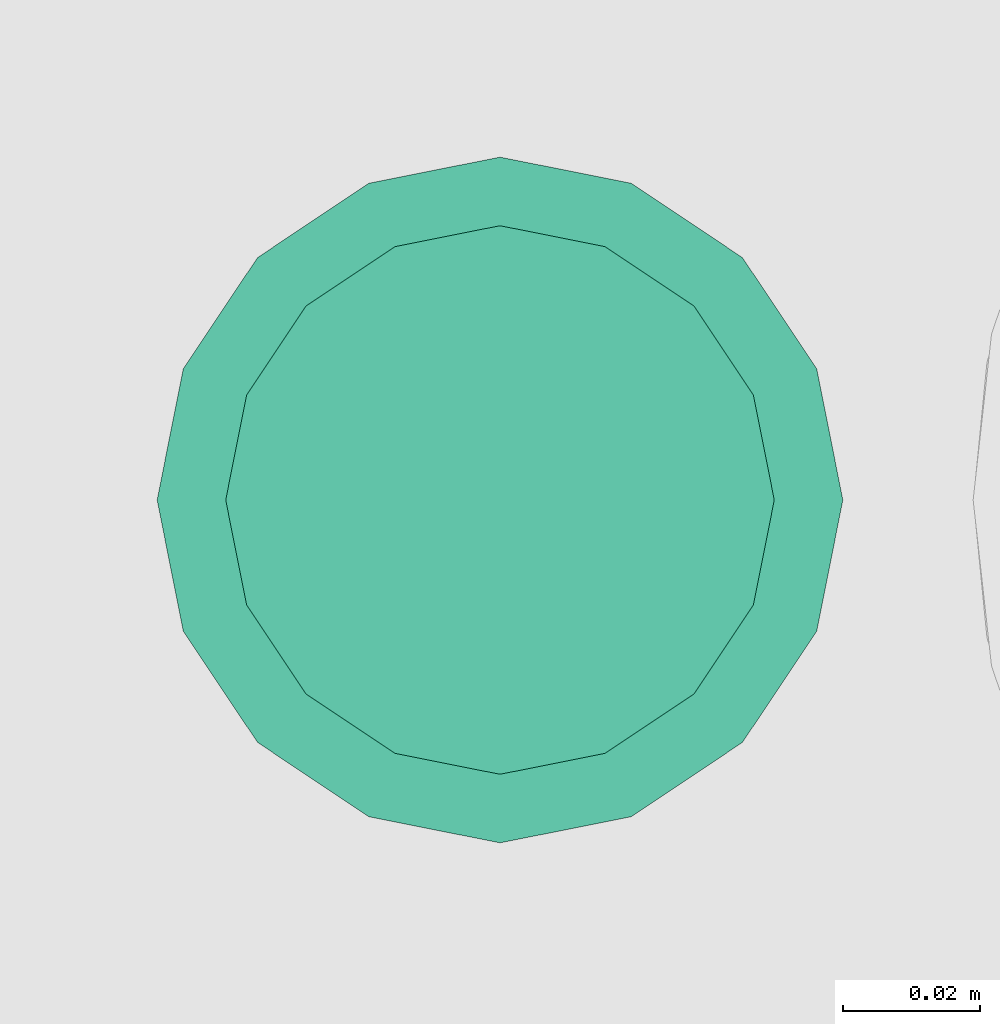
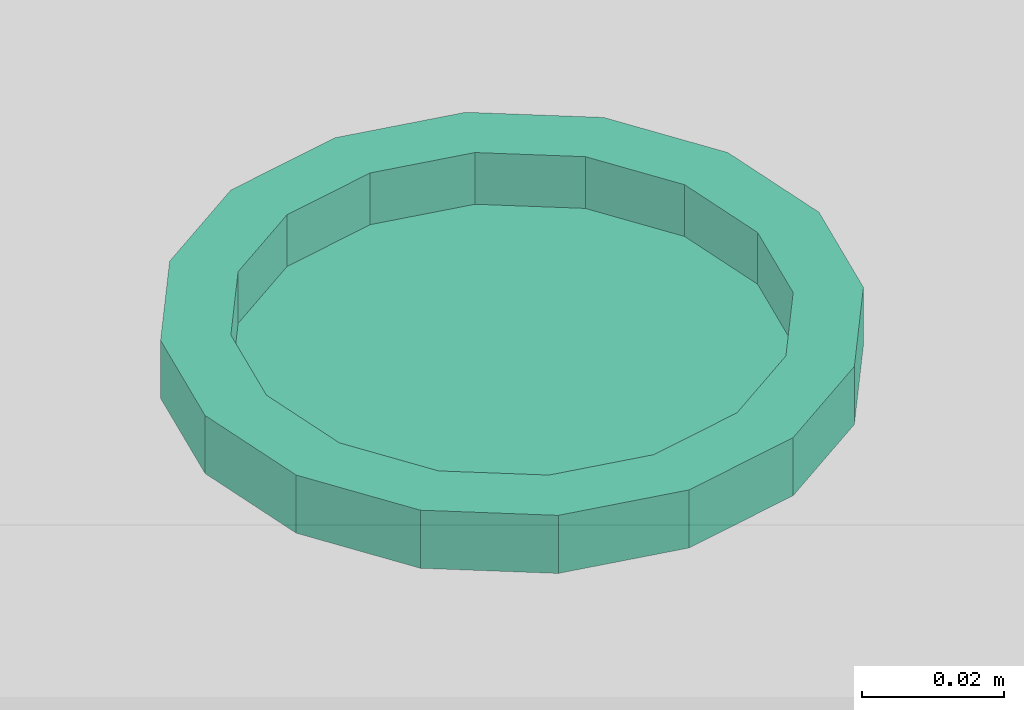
# One storey, part 259 of 347: 1 flow terminal.
"""IFC2X3 building model written with IfcOpenShell, lengths in millimetres."""

from ifc_helpers import new_model, entity, si_unit, converted_unit, derived_unit, money_unit, direction, frame, origin_with_axes, place, context, subcontext, project, spatial, open_shell, faceted_brep, surface_model, source, transform, mapped, type_object, type_shapes, element, save


model = new_model("IFC2X3")

# Units and contexts
model_context = context("Model", 3, precision=0.01, world=origin_with_axes(), true_north=direction((0.0, 1.0)))
plan_context = context("Plan", 3, precision=0.01, world=origin_with_axes(), true_north=direction((0.0, 1.0)))
body_context = subcontext(model_context, "Body", "Model", "MODEL_VIEW")
ifc_project = project(units=[si_unit("LENGTHUNIT", "METRE", prefix="MILLI"), si_unit("AREAUNIT", "SQUARE_METRE"), si_unit("VOLUMEUNIT", "CUBIC_METRE"), converted_unit("PLANEANGLEUNIT", "DEGREE", entity("IfcPlaneAngleMeasure", 0.0174532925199), si_unit("PLANEANGLEUNIT", "RADIAN"), dimensions=[0, 0, 0, 0, 0, 0, 0]), money_unit("EUR"), converted_unit("TIMEUNIT", "Year", entity("IfcTimeMeasure", 31556926.0), si_unit("TIMEUNIT", "SECOND"), dimensions=[0, 0, 1, 0, 0, 0, 0]), si_unit("MASSUNIT", "GRAM", prefix="KILO"), si_unit("THERMODYNAMICTEMPERATUREUNIT", "DEGREE_CELSIUS"), si_unit("LUMINOUSINTENSITYUNIT", "LUMEN"), si_unit("ENERGYUNIT", "JOULE", prefix="MEGA"), derived_unit("THERMALCONDUCTANCEUNIT", [(si_unit("POWERUNIT", "WATT"), 1), (si_unit("LENGTHUNIT", "METRE"), -1), (si_unit("THERMODYNAMICTEMPERATUREUNIT", "KELVIN"), -1)]), derived_unit("SPECIFICHEATCAPACITYUNIT", [(si_unit("ENERGYUNIT", "JOULE"), 1), (si_unit("MASSUNIT", "GRAM", prefix="KILO"), -1), (si_unit("THERMODYNAMICTEMPERATUREUNIT", "KELVIN"), -1)]), derived_unit("MASSDENSITYUNIT", [(si_unit("MASSUNIT", "GRAM", prefix="KILO"), 1), (si_unit("VOLUMEUNIT", "CUBIC_METRE"), -1)])], contexts=[model_context, plan_context])

# Site, building, storey
site_placement = place(None, origin_with_axes())
site = spatial("IfcSite", under=ifc_project, at=site_placement, Name="Site", CompositionType="ELEMENT")
building_placement = place(site_placement, origin_with_axes())
building = spatial("IfcBuilding", under=site, at=building_placement, Name="Naam gebouw", CompositionType="ELEMENT")
storey_placement = place(building_placement, origin_with_axes())
storey = spatial("IfcBuildingStorey", under=building, at=storey_placement, Name="begane grond", CompositionType="ELEMENT", Elevation=0.0)

# Flow terminal
lamp_type = type_object("IfcLampType", Name="Spot plafond 01 25", PredefinedType="NOTDEFINED")
shared_shape = source(origin_with_axes(), body_context, "Body", "SurfaceModel", [
    faceted_brep([(50.0, 0.0, -10.0), (46.1939766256, 19.1341716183, -10.0), (46.1939766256, 19.1341716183, 0.0), (50.0, 0.0, 0.0), (46.1939766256, -19.1341716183, -10.0), (35.3553390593, -35.3553390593, -10.0), (19.1341716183, -46.1939766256, -10.0), (0.0, -50.0, -10.0), (-19.1341716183, -46.1939766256, -10.0), (-35.3553390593, -35.3553390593, -10.0), (-46.1939766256, -19.1341716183, -10.0), (-50.0, 0.0, -10.0), (-46.1939766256, 19.1341716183, -10.0), (-35.3553390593, 35.3553390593, -10.0), (-19.1341716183, 46.1939766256, -10.0), (0.0, 50.0, -10.0), (19.1341716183, 46.1939766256, -10.0), (35.3553390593, 35.3553390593, -10.0), (40.0, 0.0, -10.0), (36.9551813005, 15.3073372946, -10.0), (28.2842712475, 28.2842712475, -10.0), (15.3073372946, 36.9551813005, -10.0), (0.0, 40.0, -10.0), (-15.3073372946, 36.9551813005, -10.0), (-28.2842712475, 28.2842712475, -10.0), (-36.9551813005, 15.3073372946, -10.0), (-40.0, 0.0, -10.0), (-36.9551813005, -15.3073372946, -10.0), (-28.2842712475, -28.2842712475, -10.0), (-15.3073372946, -36.9551813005, -10.0), (0.0, -40.0, -10.0), (15.3073372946, -36.9551813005, -10.0), (28.2842712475, -28.2842712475, -10.0), (36.9551813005, -15.3073372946, -10.0), (35.3553390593, 35.3553390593, 0.0), (19.1341716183, 46.1939766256, 0.0), (0.0, 50.0, 0.0), (-19.1341716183, 46.1939766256, 0.0), (-35.3553390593, 35.3553390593, 0.0), (-46.1939766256, 19.1341716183, 0.0), (-50.0, 0.0, 0.0), (-46.1939766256, -19.1341716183, 0.0), (-35.3553390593, -35.3553390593, 0.0), (-19.1341716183, -46.1939766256, 0.0), (0.0, -50.0, 0.0), (19.1341716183, -46.1939766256, 0.0), (35.3553390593, -35.3553390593, 0.0), (46.1939766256, -19.1341716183, 0.0), (40.0, 0.0, 0.0), (36.9551813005, -15.3073372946, 0.0), (28.2842712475, -28.2842712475, 0.0), (15.3073372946, -36.9551813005, 0.0), (0.0, -40.0, 0.0), (-15.3073372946, -36.9551813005, 0.0), (-28.2842712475, -28.2842712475, 0.0), (-36.9551813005, -15.3073372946, 0.0), (-40.0, 0.0, 0.0), (-36.9551813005, 15.3073372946, 0.0), (-28.2842712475, 28.2842712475, 0.0), (-15.3073372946, 36.9551813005, 0.0), (0.0, 40.0, 0.0), (15.3073372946, 36.9551813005, 0.0), (28.2842712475, 28.2842712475, 0.0), (36.9551813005, 15.3073372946, 0.0)], [[[0, 1, 2, 3]], [[0, 4, 5, 6, 7, 8, 9, 10, 11, 12, 13, 14, 15, 16, 17, 1], [18, 19, 20, 21, 22, 23, 24, 25, 26, 27, 28, 29, 30, 31, 32, 33]], [[1, 17, 34, 2]], [[3, 2, 34, 35, 36, 37, 38, 39, 40, 41, 42, 43, 44, 45, 46, 47], [48, 49, 50, 51, 52, 53, 54, 55, 56, 57, 58, 59, 60, 61, 62, 63]], [[4, 0, 3, 47]], [[5, 4, 47, 46]], [[6, 5, 46, 45]], [[7, 6, 45, 44]], [[8, 7, 44, 43]], [[9, 8, 43, 42]], [[10, 9, 42, 41]], [[11, 10, 41, 40]], [[12, 11, 40, 39]], [[13, 12, 39, 38]], [[14, 13, 38, 37]], [[15, 14, 37, 36]], [[16, 15, 36, 35]], [[17, 16, 35, 34]], [[19, 18, 48, 63]], [[20, 19, 63, 62]], [[21, 20, 62, 61]], [[22, 21, 61, 60]], [[23, 22, 60, 59]], [[24, 23, 59, 58]], [[25, 24, 58, 57]], [[26, 25, 57, 56]], [[27, 26, 56, 55]], [[28, 27, 55, 54]], [[29, 28, 54, 53]], [[30, 29, 53, 52]], [[31, 30, 52, 51]], [[32, 31, 51, 50]], [[33, 32, 50, 49]], [[18, 33, 49, 48]]]),
    surface_model("IfcShellBasedSurfaceModel", [(40.0, 0.0, -8.9), (36.9551813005, -15.3073372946, -8.9), (28.2842712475, -28.2842712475, -8.9), (15.3073372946, -36.9551813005, -8.9), (0.0, -40.0, -8.9), (-15.3073372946, -36.9551813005, -8.9), (-28.2842712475, -28.2842712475, -8.9), (-36.9551813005, -15.3073372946, -8.9), (-40.0, 0.0, -8.9), (-36.9551813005, 15.3073372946, -8.9), (-28.2842712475, 28.2842712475, -8.9), (-15.3073372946, 36.9551813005, -8.9), (0.0, 40.0, -8.9), (15.3073372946, 36.9551813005, -8.9), (28.2842712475, 28.2842712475, -8.9), (36.9551813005, 15.3073372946, -8.9)], [open_shell([[[0, 1, 2, 3, 4, 5, 6, 7, 8, 9, 10, 11, 12, 13, 14, 15]]])]),
])
type_shapes(lamp_type, [shared_shape])
flow_terminal_placement = place(storey_placement, frame((37540.0, 34089.9999277, 2600.0), z_axis=(0.0, 0.0, 1.0), x_axis=(1.0, 0.0, 0.0)))
element("IfcFlowTerminal", 1, at=flow_terminal_placement, inside=storey, type_object=lamp_type, Name="63_Lamp-x", ObjectType="Lamp", context=body_context, shape_type="MappedRepresentation", body=[
    mapped(shared_shape, transform((0.0, 0.0, 0.0))),
])

save(model, "model.ifc")
